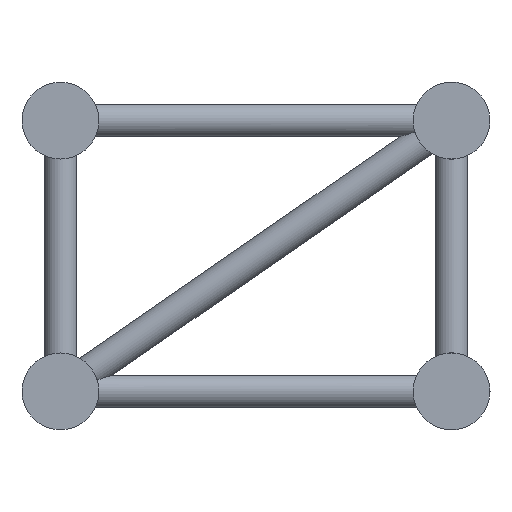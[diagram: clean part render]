
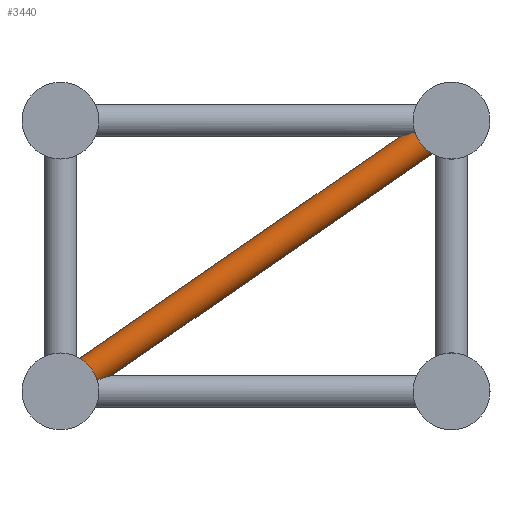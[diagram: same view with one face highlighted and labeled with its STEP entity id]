
A CAD part, left-side view. The second image highlights one B-rep face of the part: STEP entity #3440.
In plain terms, the highlighted cylindrical face has radius 12.5 mm (diameter 25 mm), a full revolution.
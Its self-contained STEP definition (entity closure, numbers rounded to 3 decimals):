
#540=FACE_BOUND('',#898,.T.);
#670=FACE_OUTER_BOUND('',#897,.T.);
#897=EDGE_LOOP('',(#2216,#2217));
#898=EDGE_LOOP('',(#2218,#2219));
#1251=CIRCLE('',#3684,12.5);
#1252=CIRCLE('',#3686,12.5);
#1404=ELLIPSE('',#3683,41.923,12.5);
#1405=ELLIPSE('',#3685,41.923,12.5);
#1456=VERTEX_POINT('',#5108);
#1457=VERTEX_POINT('',#5109);
#1458=VERTEX_POINT('',#5112);
#1459=VERTEX_POINT('',#5113);
#1768=EDGE_CURVE('',#1456,#1457,#1404,.T.);
#1769=EDGE_CURVE('',#1457,#1456,#1251,.T.);
#1770=EDGE_CURVE('',#1458,#1459,#1405,.T.);
#1771=EDGE_CURVE('',#1459,#1458,#1252,.T.);
#2216=ORIENTED_EDGE('',*,*,#1768,.F.);
#2217=ORIENTED_EDGE('',*,*,#1769,.F.);
#2218=ORIENTED_EDGE('',*,*,#1770,.F.);
#2219=ORIENTED_EDGE('',*,*,#1771,.F.);
#3138=CYLINDRICAL_SURFACE('',#3682,12.5);
#3440=ADVANCED_FACE('',(#670,#540),#3138,.T.);
#3682=AXIS2_PLACEMENT_3D('',#5107,#4132,#4133);
#3683=AXIS2_PLACEMENT_3D('',#5110,#4134,#4135);
#3684=AXIS2_PLACEMENT_3D('',#5111,#4136,#4137);
#3685=AXIS2_PLACEMENT_3D('',#5114,#4138,#4139);
#3686=AXIS2_PLACEMENT_3D('',#5115,#4140,#4141);
#4132=DIRECTION('center_axis',(0.,-0.822,
0.569));
#4133=DIRECTION('ref_axis',(1.,0.,0.));
#4134=DIRECTION('center_axis',(0.,0.298,
0.955));
#4135=DIRECTION('ref_axis',(0.,0.955,-0.298));
#4136=DIRECTION('center_axis',(0.,-0.822,
0.569));
#4137=DIRECTION('ref_axis',(1.,0.,0.));
#4138=DIRECTION('center_axis',(0.,-0.298,
-0.955));
#4139=DIRECTION('ref_axis',(0.,0.955,-0.298));
#4140=DIRECTION('center_axis',(0.,0.822,-0.569));
#4141=DIRECTION('ref_axis',(1.,0.,0.));
#5107=CARTESIAN_POINT('Origin',(92.5,278.173,-192.581));
#5108=CARTESIAN_POINT('',(102.177,25.331,-7.913));
#5109=CARTESIAN_POINT('',(82.823,25.331,-7.913));
#5110=CARTESIAN_POINT('Origin',(92.5,0.,0.));
#5111=CARTESIAN_POINT('Origin',(92.5,20.827,-14.419));
#5112=CARTESIAN_POINT('',(102.177,273.669,-199.087));
#5113=CARTESIAN_POINT('',(82.823,273.669,-199.087));
#5114=CARTESIAN_POINT('Origin',(92.5,299.,-207.));
#5115=CARTESIAN_POINT('Origin',(92.5,278.173,-192.581));
